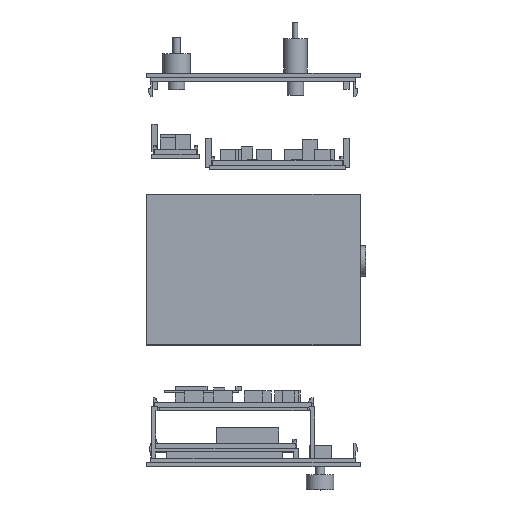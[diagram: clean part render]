
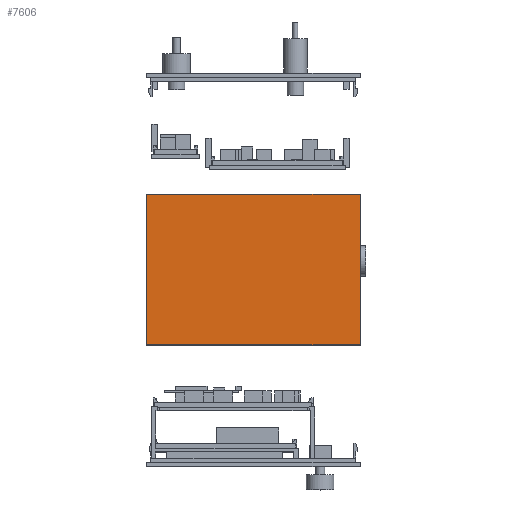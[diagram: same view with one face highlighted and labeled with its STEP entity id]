
A CAD part, top view. The second image highlights one B-rep face of the part: STEP entity #7606.
In plain terms, the highlighted planar face has unit normal (0, 0, 1).
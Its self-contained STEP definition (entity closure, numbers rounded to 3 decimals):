
#5915 = VERTEX_POINT('',#5916);
#5916 = CARTESIAN_POINT('',(0.,3.,100.));
#5923 = PLANE('',#5924);
#5924 = AXIS2_PLACEMENT_3D('',#5925,#5926,#5927);
#5925 = CARTESIAN_POINT('',(0.,3.,0.));
#5926 = DIRECTION('',(1.,0.,0.));
#5927 = DIRECTION('',(0.,0.,1.));
#5935 = PLANE('',#5936);
#5936 = AXIS2_PLACEMENT_3D('',#5937,#5938,#5939);
#5937 = CARTESIAN_POINT('',(0.,3.,0.));
#5938 = DIRECTION('',(0.,1.,0.));
#5939 = DIRECTION('',(0.,0.,1.));
#5976 = VERTEX_POINT('',#5977);
#5977 = CARTESIAN_POINT('',(0.,112.,100.));
#5991 = PLANE('',#5992);
#5992 = AXIS2_PLACEMENT_3D('',#5993,#5994,#5995);
#5993 = CARTESIAN_POINT('',(0.,112.,0.));
#5994 = DIRECTION('',(0.,1.,0.));
#5995 = DIRECTION('',(0.,0.,1.));
#6003 = EDGE_CURVE('',#5915,#5976,#6004,.T.);
#6004 = SURFACE_CURVE('',#6005,(#6009,#6016),.PCURVE_S1.);
#6005 = LINE('',#6006,#6007);
#6006 = CARTESIAN_POINT('',(0.,3.,100.));
#6007 = VECTOR('',#6008,1.);
#6008 = DIRECTION('',(0.,1.,0.));
#6009 = PCURVE('',#5923,#6010);
#6010 = DEFINITIONAL_REPRESENTATION('',(#6011),#6015);
#6011 = LINE('',#6012,#6013);
#6012 = CARTESIAN_POINT('',(100.,0.));
#6013 = VECTOR('',#6014,1.);
#6014 = DIRECTION('',(0.,-1.));
#6015 = ( GEOMETRIC_REPRESENTATION_CONTEXT(2) 
PARAMETRIC_REPRESENTATION_CONTEXT() REPRESENTATION_CONTEXT('2D SPACE',''
  ) );
#6016 = PCURVE('',#6017,#6022);
#6017 = PLANE('',#6018);
#6018 = AXIS2_PLACEMENT_3D('',#6019,#6020,#6021);
#6019 = CARTESIAN_POINT('',(0.,3.,100.));
#6020 = DIRECTION('',(0.,0.,1.));
#6021 = DIRECTION('',(1.,0.,0.));
#6022 = DEFINITIONAL_REPRESENTATION('',(#6023),#6027);
#6023 = LINE('',#6024,#6025);
#6024 = CARTESIAN_POINT('',(0.,0.));
#6025 = VECTOR('',#6026,1.);
#6026 = DIRECTION('',(0.,1.));
#6027 = ( GEOMETRIC_REPRESENTATION_CONTEXT(2) 
PARAMETRIC_REPRESENTATION_CONTEXT() REPRESENTATION_CONTEXT('2D SPACE',''
  ) );
#7444 = EDGE_CURVE('',#5915,#7445,#7447,.T.);
#7445 = VERTEX_POINT('',#7446);
#7446 = CARTESIAN_POINT('',(155.,3.,100.));
#7447 = SURFACE_CURVE('',#7448,(#7452,#7459),.PCURVE_S1.);
#7448 = LINE('',#7449,#7450);
#7449 = CARTESIAN_POINT('',(0.,3.,100.));
#7450 = VECTOR('',#7451,1.);
#7451 = DIRECTION('',(1.,0.,0.));
#7452 = PCURVE('',#5935,#7453);
#7453 = DEFINITIONAL_REPRESENTATION('',(#7454),#7458);
#7454 = LINE('',#7455,#7456);
#7455 = CARTESIAN_POINT('',(100.,0.));
#7456 = VECTOR('',#7457,1.);
#7457 = DIRECTION('',(0.,1.));
#7458 = ( GEOMETRIC_REPRESENTATION_CONTEXT(2) 
PARAMETRIC_REPRESENTATION_CONTEXT() REPRESENTATION_CONTEXT('2D SPACE',''
  ) );
#7459 = PCURVE('',#6017,#7460);
#7460 = DEFINITIONAL_REPRESENTATION('',(#7461),#7465);
#7461 = LINE('',#7462,#7463);
#7462 = CARTESIAN_POINT('',(0.,0.));
#7463 = VECTOR('',#7464,1.);
#7464 = DIRECTION('',(1.,0.));
#7465 = ( GEOMETRIC_REPRESENTATION_CONTEXT(2) 
PARAMETRIC_REPRESENTATION_CONTEXT() REPRESENTATION_CONTEXT('2D SPACE',''
  ) );
#7481 = PLANE('',#7482);
#7482 = AXIS2_PLACEMENT_3D('',#7483,#7484,#7485);
#7483 = CARTESIAN_POINT('',(155.,3.,0.));
#7484 = DIRECTION('',(1.,0.,0.));
#7485 = DIRECTION('',(0.,0.,1.));
#7606 = ADVANCED_FACE('',(#7607),#6017,.T.);
#7607 = FACE_BOUND('',#7608,.T.);
#7608 = EDGE_LOOP('',(#7609,#7610,#7611,#7634));
#7609 = ORIENTED_EDGE('',*,*,#6003,.F.);
#7610 = ORIENTED_EDGE('',*,*,#7444,.T.);
#7611 = ORIENTED_EDGE('',*,*,#7612,.T.);
#7612 = EDGE_CURVE('',#7445,#7613,#7615,.T.);
#7613 = VERTEX_POINT('',#7614);
#7614 = CARTESIAN_POINT('',(155.,112.,100.));
#7615 = SURFACE_CURVE('',#7616,(#7620,#7627),.PCURVE_S1.);
#7616 = LINE('',#7617,#7618);
#7617 = CARTESIAN_POINT('',(155.,3.,100.));
#7618 = VECTOR('',#7619,1.);
#7619 = DIRECTION('',(0.,1.,0.));
#7620 = PCURVE('',#6017,#7621);
#7621 = DEFINITIONAL_REPRESENTATION('',(#7622),#7626);
#7622 = LINE('',#7623,#7624);
#7623 = CARTESIAN_POINT('',(155.,0.));
#7624 = VECTOR('',#7625,1.);
#7625 = DIRECTION('',(0.,1.));
#7626 = ( GEOMETRIC_REPRESENTATION_CONTEXT(2) 
PARAMETRIC_REPRESENTATION_CONTEXT() REPRESENTATION_CONTEXT('2D SPACE',''
  ) );
#7627 = PCURVE('',#7481,#7628);
#7628 = DEFINITIONAL_REPRESENTATION('',(#7629),#7633);
#7629 = LINE('',#7630,#7631);
#7630 = CARTESIAN_POINT('',(100.,0.));
#7631 = VECTOR('',#7632,1.);
#7632 = DIRECTION('',(0.,-1.));
#7633 = ( GEOMETRIC_REPRESENTATION_CONTEXT(2) 
PARAMETRIC_REPRESENTATION_CONTEXT() REPRESENTATION_CONTEXT('2D SPACE',''
  ) );
#7634 = ORIENTED_EDGE('',*,*,#7635,.F.);
#7635 = EDGE_CURVE('',#5976,#7613,#7636,.T.);
#7636 = SURFACE_CURVE('',#7637,(#7641,#7648),.PCURVE_S1.);
#7637 = LINE('',#7638,#7639);
#7638 = CARTESIAN_POINT('',(0.,112.,100.));
#7639 = VECTOR('',#7640,1.);
#7640 = DIRECTION('',(1.,0.,0.));
#7641 = PCURVE('',#6017,#7642);
#7642 = DEFINITIONAL_REPRESENTATION('',(#7643),#7647);
#7643 = LINE('',#7644,#7645);
#7644 = CARTESIAN_POINT('',(0.,109.));
#7645 = VECTOR('',#7646,1.);
#7646 = DIRECTION('',(1.,0.));
#7647 = ( GEOMETRIC_REPRESENTATION_CONTEXT(2) 
PARAMETRIC_REPRESENTATION_CONTEXT() REPRESENTATION_CONTEXT('2D SPACE',''
  ) );
#7648 = PCURVE('',#5991,#7649);
#7649 = DEFINITIONAL_REPRESENTATION('',(#7650),#7654);
#7650 = LINE('',#7651,#7652);
#7651 = CARTESIAN_POINT('',(100.,0.));
#7652 = VECTOR('',#7653,1.);
#7653 = DIRECTION('',(0.,1.));
#7654 = ( GEOMETRIC_REPRESENTATION_CONTEXT(2) 
PARAMETRIC_REPRESENTATION_CONTEXT() REPRESENTATION_CONTEXT('2D SPACE',''
  ) );
